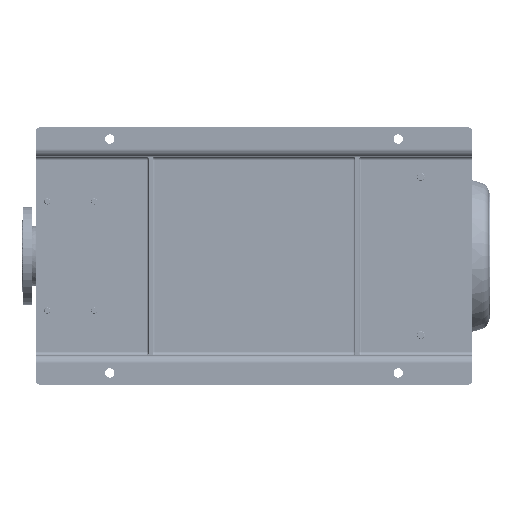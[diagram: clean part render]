
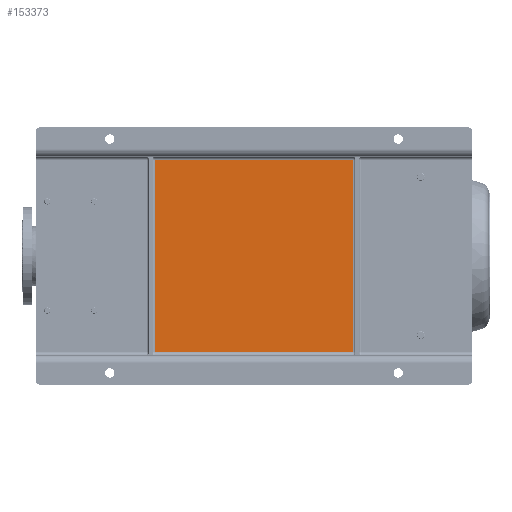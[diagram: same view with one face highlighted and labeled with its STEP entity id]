
A CAD part, front view. The second image highlights one B-rep face of the part: STEP entity #153373.
In plain terms, the highlighted planar face has unit normal (0, -1, 0).
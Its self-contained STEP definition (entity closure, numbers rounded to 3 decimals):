
#20 = CARTESIAN_POINT ( 'NONE',  ( 85., 65., -820. ) ) ;
#5673 = CARTESIAN_POINT ( 'NONE',  ( 85., 65., -815. ) ) ;
#5799 = FACE_OUTER_BOUND ( 'NONE', #6367, .T. ) ;
#6367 = EDGE_LOOP ( 'NONE', ( #12593, #18855, #106269, #157969 ) ) ;
#12593 = ORIENTED_EDGE ( 'NONE', *, *, #85927, .T. ) ;
#16306 = EDGE_CURVE ( 'NONE', #18679, #136240, #165857, .T. ) ;
#17904 = DIRECTION ( 'NONE',  ( 0., 0., -1. ) ) ;
#18679 = VERTEX_POINT ( 'NONE', #39100 ) ;
#18855 = ORIENTED_EDGE ( 'NONE', *, *, #48183, .T. ) ;
#20710 = VECTOR ( 'NONE', #93408, 1000. ) ;
#21957 = VECTOR ( 'NONE', #168716, 1000. ) ;
#22889 = EDGE_CURVE ( 'NONE', #136240, #108426, #55413, .T. ) ;
#39100 = CARTESIAN_POINT ( 'NONE',  ( 575., 65., -815. ) ) ;
#39307 = CARTESIAN_POINT ( 'NONE',  ( 575., 65., -305. ) ) ;
#40923 = DIRECTION ( 'NONE',  ( 0., 0., -1. ) ) ;
#46170 = LINE ( 'NONE', #102793, #20710 ) ;
#46321 = VECTOR ( 'NONE', #40923, 1000. ) ;
#46812 = AXIS2_PLACEMENT_3D ( 'NONE', #72749, #144233, #17904 ) ;
#48183 = EDGE_CURVE ( 'NONE', #116765, #18679, #46170, .T. ) ;
#53480 = DIRECTION ( 'NONE',  ( 0., 0., 1. ) ) ;
#55413 = LINE ( 'NONE', #139893, #21957 ) ;
#72732 = VECTOR ( 'NONE', #53480, 1000. ) ;
#72749 = CARTESIAN_POINT ( 'NONE',  ( 75., 65., -1120. ) ) ;
#75635 = CARTESIAN_POINT ( 'NONE',  ( 85., 65., -305. ) ) ;
#85927 = EDGE_CURVE ( 'NONE', #108426, #116765, #127274, .T. ) ;
#93408 = DIRECTION ( 'NONE',  ( 1., 0., 0. ) ) ;
#102793 = CARTESIAN_POINT ( 'NONE',  ( 75., 65., -815. ) ) ;
#106269 = ORIENTED_EDGE ( 'NONE', *, *, #16306, .T. ) ;
#108426 = VERTEX_POINT ( 'NONE', #75635 ) ;
#116765 = VERTEX_POINT ( 'NONE', #5673 ) ;
#127274 = LINE ( 'NONE', #20, #46321 ) ;
#136240 = VERTEX_POINT ( 'NONE', #39307 ) ;
#139893 = CARTESIAN_POINT ( 'NONE',  ( 75., 65., -305. ) ) ;
#144233 = DIRECTION ( 'NONE',  ( 0., -1., 0. ) ) ;
#153373 = ADVANCED_FACE ( 'NONE', ( #5799 ), #175771, .T. ) ;
#157969 = ORIENTED_EDGE ( 'NONE', *, *, #22889, .T. ) ;
#165857 = LINE ( 'NONE', #179793, #72732 ) ;
#168716 = DIRECTION ( 'NONE',  ( -1., 0., 0. ) ) ;
#175771 = PLANE ( 'NONE',  #46812 ) ;
#179793 = CARTESIAN_POINT ( 'NONE',  ( 575., 65., -300. ) ) ;
